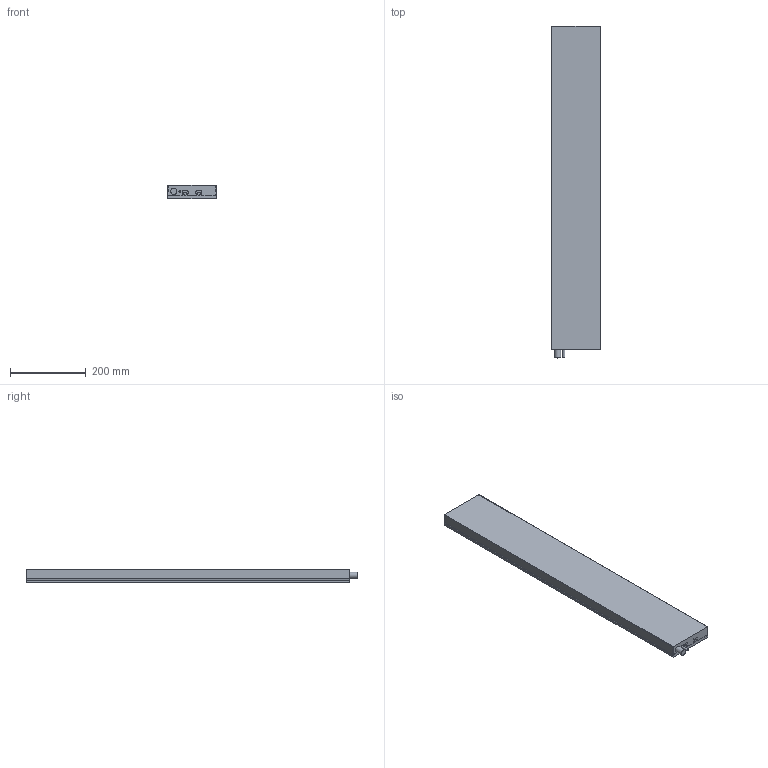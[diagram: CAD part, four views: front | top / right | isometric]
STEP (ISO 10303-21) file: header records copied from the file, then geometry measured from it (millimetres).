
FILE_DESCRIPTION( ( 'STEP AP214' ), '1' );
FILE_NAME( 'C:/Documents and Settings/wvbeek/Bureaublad/Coilunit_TBW45_20110830.stp', '2011-08-30T09:50:16', ( ' ' ), ( ' ' ), 'XStep 1.0', ' ', ' ' );
FILE_SCHEMA( ( 'CONFIG_CONTROL_DESIGN) ( )' ) );
Length unit declared in the file: metre
Products named in the file (1): 1
Bounding box: 130 x 874.5 x 34.4 mm (x, y, z)
Volume: 3801100 mm3; surface area: 289820.8 mm2
Topology: 1 solids, 1 shells, 520 faces, 1349 edges, 912 vertices
Faces by surface type: plane 315, cylinder 205
Full cylindrical faces by diameter (mm): 2.5 x2, 3.242 x1, 4.2 x36, 5 x2, 8.566 x2, 16.5 x1
Entity records: 15452 total; most frequent: DIRECTION 2719, CARTESIAN_POINT 2660, ORIENTED_EDGE 2532, EDGE_CURVE 1266, AXIS2_PLACEMENT_3D 932, VERTEX_POINT 873, LINE 855, VECTOR 855
